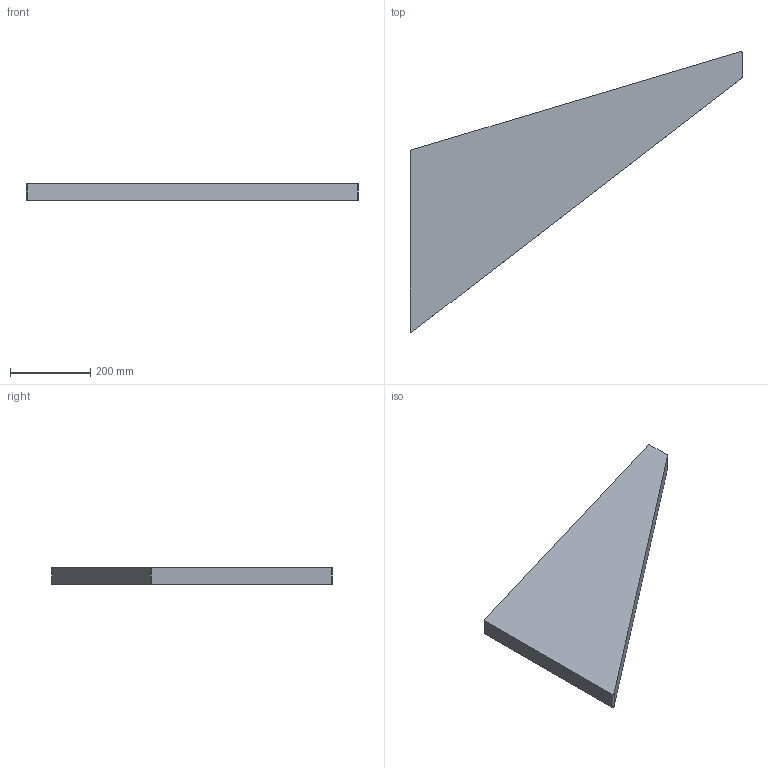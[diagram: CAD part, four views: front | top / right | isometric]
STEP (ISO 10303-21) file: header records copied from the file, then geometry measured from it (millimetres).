
FILE_DESCRIPTION(/* description */ (''),/* implementation_level */ '2;1');
FILE_NAME(/* name */ 'Pos103-Hout D= 40-Hout-3st',/* time_stamp */ '2024-08-06T13:37:43+02:00',/* author */ (''),/* organization */ (''),/* preprocessor_version */ 'ST-DEVELOPER v16.5',/* originating_system */ 'HiCAD 2024 2901.2 Build 361',/* authorisation */ '');
FILE_SCHEMA (('AUTOMOTIVE_DESIGN { 1 0 10303 214 1 1 1 1 }'));
Length unit declared in the file: millimetre
Products named in the file (2): Pos103-Hout D= 40-Hout-3st; Pos0-Antislip-Rubber-0st
Assembly tree (1 placements, depth 2):
  Pos103-Hout D= 40-Hout-3st
    Pos0-Antislip-Rubber-0st
Bounding box: 830 x 702.23 x 40 mm (x, y, z)
Volume: 8721746.5 mm3; surface area: 533307.3 mm2
Topology: 1 solids, 1 shells, 10 faces, 24 edges, 16 vertices
Faces by surface type: plane 6, cylinder 4
Entity records: 580 total; most frequent: DIRECTION 56, CARTESIAN_POINT 52, PRESENTATION_STYLE_ASSIGNMENT 49, COLOUR_RGB 49, DRAUGHTING_PRE_DEFINED_CURVE_FONT 48, CURVE_STYLE 48, OVER_RIDING_STYLED_ITEM 48, ORIENTED_EDGE 48
